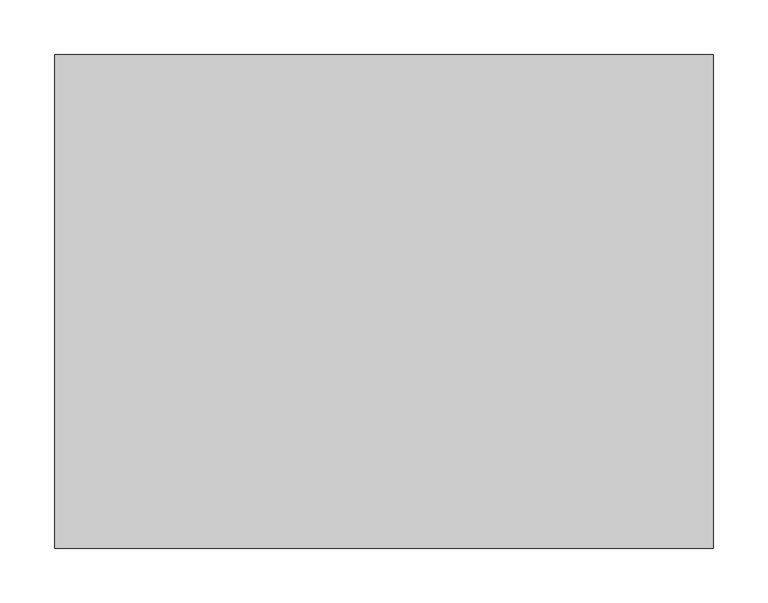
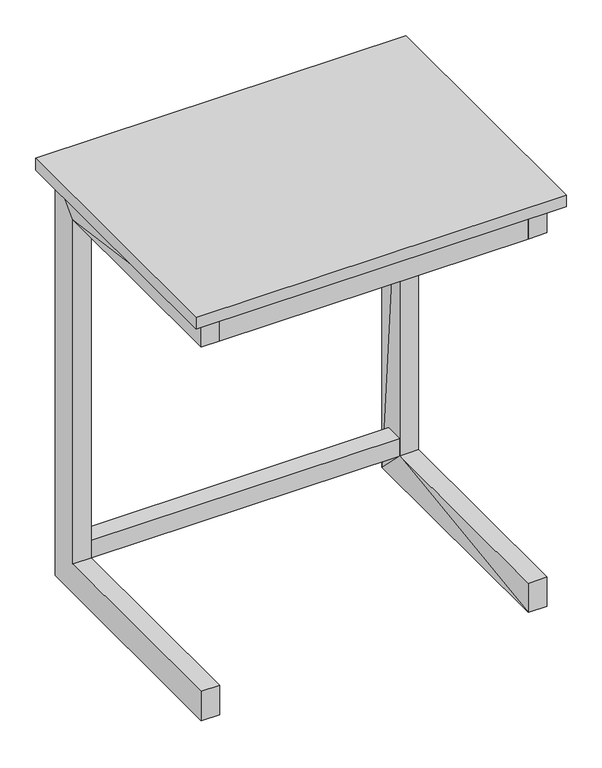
"""IFC4 building model written with IfcOpenShell, lengths in millimetres: furniture geometry, 2.1 Mesa alumno : 2.1 Mesa alumno."""

from ifc_helpers import new_model, si_unit, origin, place, context, project, spatial, faceted_brep, source, transform, mapped, element, save


def furniture_937832ed(model_context):
    return source(origin(), model_context, "Body", "Brep", [
        faceted_brep([(249.9699593, -205.078125, 690.002555), (-250.0293255, -205.078125, 690.002555), (-250.0293255, -205.078125, 639.9997417), (249.9699593, -205.078125, 639.9997417), (249.9699593, -175.0793457, 690.002555), (-250.0293255, -175.0793457, 690.002555), (249.9699593, -175.0793457, 639.9997417), (-250.0293255, -175.0793457, 639.9997417)], [[[0, 1, 2, 3]], [[4, 5, 1, 0]], [[6, 7, 5, 4]], [[3, 2, 7, 6]], [[2, 1, 5, 7]], [[3, 6, 4, 0]]]),
        faceted_brep([(-300.049305, 224.9298096, 710.0024167), (-300.049305, 224.9298096, 690.0024358), (-300.049305, -225.0823975, 690.0024358), (-300.049305, -225.0823975, 710.0024167), (300.0483513, -225.0823975, 690.0024358), (300.0483513, -225.0823975, 710.0024167), (300.0483513, 224.9298096, 690.0024358), (300.0483513, 224.9298096, 710.0024167)], [[[0, 1, 2, 3]], [[3, 2, 4, 5]], [[5, 4, 6, 7]], [[7, 6, 1, 0]], [[6, 4, 2, 1]], [[3, 5, 7, 0]]]),
        faceted_brep([(-249.9711514, 205.078125, 690.0023762), (-279.9711227, 205.078125, 690.0023762), (-279.9706459, -205.078125, 690.0026146), (-249.9704361, -205.078125, 690.0026146), (-249.9709129, 155.0292969, 639.9998013), (-279.9713612, -205.078125, 639.9998013), (-249.9713898, -205.078125, 639.9998013), (-279.9711227, 155.0292969, 639.9998013), (-249.9711514, 205.0800323, 0.0), (-279.9711227, 205.0800323, 0.0), (-249.9713898, 155.0312042, 50.0026364), (-279.9711227, 155.0312042, 50.0026364), (-279.9711227, -205.078125, 0.0), (-249.9713898, -205.078125, 0.0), (-279.9711227, -205.078125, 49.9999989), (-249.9713898, -205.078125, 49.9999989)], [[[0, 1, 2, 3]], [[3, 4, 0]], [[2, 5, 6, 3]], [[1, 7, 2]], [[8, 9, 1, 0]], [[4, 8, 0]], [[4, 3, 6]], [[2, 7, 5]], [[10, 8, 4]], [[11, 10, 4, 7]], [[7, 4, 6, 5]], [[12, 9, 8, 13]], [[10, 13, 8]], [[14, 11, 7, 1, 9, 12]], [[15, 10, 11, 14]], [[13, 10, 15]], [[12, 13, 15, 14]]]),
        faceted_brep([(249.9711514, 205.078125, 690.0023762), (249.9701977, -205.078125, 690.0026146), (279.9701691, -205.078125, 690.0026146), (279.9711227, 205.078125, 690.0023762), (249.9711514, 205.078125, 0.0), (279.9711227, 205.078125, 0.0), (279.9708843, 155.0292969, 639.9998013), (249.9709129, -205.078125, 639.9998013), (279.9708843, -205.078125, 639.9998013), (249.9709129, 155.0292969, 639.9998013), (279.9711227, 155.0292969, 50.0026364), (279.9708843, -205.078125, 0.0), (249.9706745, -205.078125, 0.0), (249.9711514, 155.0292969, 50.0026364), (249.9706745, -205.078125, 49.9999989), (279.9708843, -205.078125, 49.9999989)], [[[0, 1, 2, 3]], [[4, 0, 3, 5]], [[3, 2, 6]], [[2, 1, 7, 8]], [[9, 1, 0]], [[4, 9, 0]], [[5, 3, 10]], [[10, 3, 6]], [[6, 2, 8]], [[1, 9, 7]], [[11, 12, 4, 5]], [[12, 13, 4]], [[13, 9, 4]], [[10, 11, 5]], [[10, 6, 9, 13]], [[6, 8, 7, 9]], [[14, 15, 10, 13]], [[15, 11, 10]], [[11, 15, 14, 12]], [[13, 12, 14]]]),
        faceted_brep([(249.9698247, 155.0295425, 639.9997759), (-250.0303541, 155.0296105, 639.9996473), (-250.0303433, 155.0296105, 609.999648), (249.9698355, 155.0295425, 609.9997765), (249.9698346, 185.0295419, 639.9997759), (-250.0303442, 185.0296098, 639.9996473), (249.9698453, 185.0295419, 609.9997765), (-250.0303335, 185.0296098, 609.999648)], [[[0, 1, 2, 3]], [[4, 5, 1, 0]], [[6, 7, 5, 4]], [[3, 2, 7, 6]], [[2, 1, 5, 7]], [[3, 6, 4, 0]]]),
        faceted_brep([(249.9697866, 155.0295425, 80.0025824), (-250.0303922, 155.0296105, 80.0024538), (-250.0303815, 155.0296105, 50.0024545), (249.9697973, 155.0295425, 50.002583), (249.9697964, 185.0295419, 80.0025824), (-250.0303824, 185.0296098, 80.0024538), (249.9698072, 185.0295419, 50.002583), (-250.0303717, 185.0296098, 50.0024545)], [[[0, 1, 2, 3]], [[4, 5, 1, 0]], [[6, 7, 5, 4]], [[3, 2, 7, 6]], [[2, 1, 5, 7]], [[3, 6, 4, 0]]]),
    ])


if __name__ == "__main__":
    model = new_model("IFC4")
    model_context = context("Model", 3, world=origin())
    ifc_project = project(units=[si_unit("LENGTHUNIT", "METRE", prefix="MILLI")], contexts=[model_context])
    site = spatial("IfcSite", under=ifc_project)
    building = spatial("IfcBuilding", under=site)
    placement = place(None, origin())
    furniture_shape = furniture_937832ed(model_context)
    element("IfcFurniture", 1, ObjectType="2.1 Mesa alumno : 2.1 Mesa alumno", at=placement, inside=building, context=model_context, shape_type="MappedRepresentation", body=[
        mapped(furniture_shape, transform((0.0, 0.0, 0.0), x_axis=(1.0, 0.0, 0.0), y_axis=(0.0, 1.0, 0.0), z_axis=(0.0, 0.0, 1.0))),
    ])
    save(model, "model.ifc")
